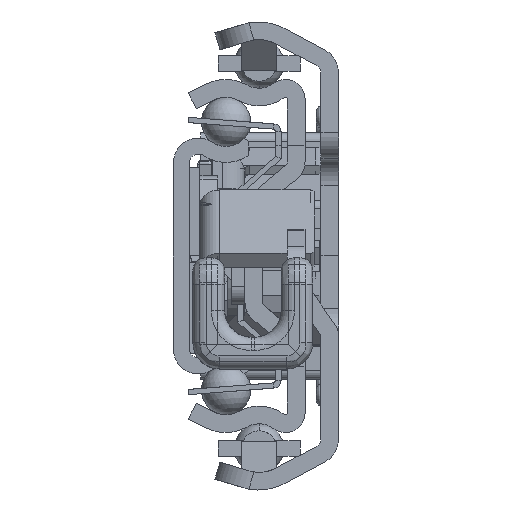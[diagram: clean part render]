
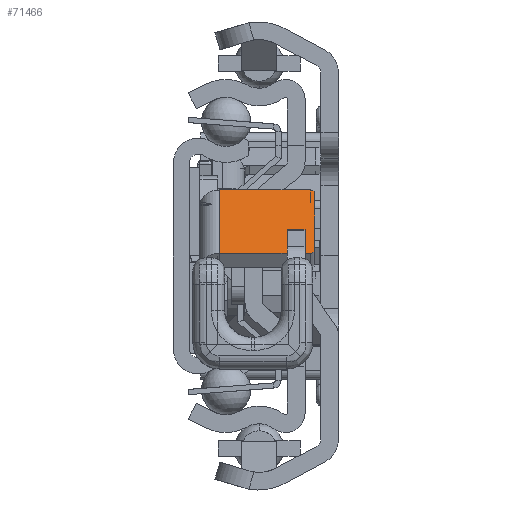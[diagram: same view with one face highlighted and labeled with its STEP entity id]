
A CAD part, left-side view. The second image highlights one B-rep face of the part: STEP entity #71466.
In plain terms, the highlighted planar face has unit normal (-0.597, 0, 0.802) as drawn and (-0.597, -0.802, 0) by its records, which use the part's own axes.
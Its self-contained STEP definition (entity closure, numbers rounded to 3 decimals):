
#70854=DIRECTION('',(0.802,-0.597,0.));
#70855=VECTOR('',#70854,12.);
#70856=CARTESIAN_POINT('',(31.957,-10.314,-0.2));
#70857=LINE('',#70856,#70855);
#70882=DIRECTION('',(0.,0.,1.));
#70883=VECTOR('',#70882,10.3);
#70884=CARTESIAN_POINT('',(41.586,-17.476,-10.5));
#70885=LINE('',#70884,#70883);
#70886=CARTESIAN_POINT('',(41.184,-17.178,-10.5));
#70887=DIRECTION('',(-0.597,-0.802,0.));
#70888=DIRECTION('',(0.,0.,-1.));
#70889=AXIS2_PLACEMENT_3D('',#70886,#70887,#70888);
#70891=DIRECTION('',(0.802,-0.597,0.));
#70892=VECTOR('',#70891,11.);
#70893=CARTESIAN_POINT('',(32.358,-10.613,-11.));
#70894=LINE('',#70893,#70892);
#70895=CARTESIAN_POINT('',(32.358,-10.613,-10.5));
#70896=DIRECTION('',(-0.597,-0.802,0.));
#70897=DIRECTION('',(-0.802,0.597,0.));
#70898=AXIS2_PLACEMENT_3D('',#70895,#70896,#70897);
#70900=DIRECTION('',(0.,0.,-1.));
#70901=VECTOR('',#70900,10.3);
#70902=CARTESIAN_POINT('',(31.957,-10.314,-0.2));
#70903=LINE('',#70902,#70901);
#71120=CARTESIAN_POINT('',(31.957,-10.314,-0.2));
#71121=CARTESIAN_POINT('',(41.586,-17.476,-0.2));
#71122=VERTEX_POINT('',#71120);
#71123=VERTEX_POINT('',#71121);
#71152=CARTESIAN_POINT('',(41.586,-17.476,-10.5));
#71153=VERTEX_POINT('',#71152);
#71154=CARTESIAN_POINT('',(32.358,-10.613,-11.));
#71155=CARTESIAN_POINT('',(41.184,-17.178,-11.));
#71156=VERTEX_POINT('',#71154);
#71157=VERTEX_POINT('',#71155);
#71158=CARTESIAN_POINT('',(31.957,-10.314,-10.5));
#71159=VERTEX_POINT('',#71158);
#71448=CARTESIAN_POINT('',(34.726,-12.374,2.));
#71449=DIRECTION('',(0.597,0.802,0.));
#71450=DIRECTION('',(0.802,-0.597,0.));
#71451=AXIS2_PLACEMENT_3D('',#71448,#71449,#71450);
#71452=PLANE('',#71451);
#71454=ORIENTED_EDGE('',*,*,#71453,.F.);
#71456=ORIENTED_EDGE('',*,*,#71455,.F.);
#71458=ORIENTED_EDGE('',*,*,#71457,.F.);
#71460=ORIENTED_EDGE('',*,*,#71459,.F.);
#71462=ORIENTED_EDGE('',*,*,#71461,.F.);
#71463=ORIENTED_EDGE('',*,*,#71435,.T.);
#71464=EDGE_LOOP('',(#71454,#71456,#71458,#71460,#71462,#71463));
#71465=FACE_OUTER_BOUND('',#71464,.F.);
#70890=CIRCLE('',#70889,0.5);
#70899=CIRCLE('',#70898,0.5);
#71435=EDGE_CURVE('',#71122,#71123,#70857,.T.);
#71453=EDGE_CURVE('',#71153,#71123,#70885,.T.);
#71455=EDGE_CURVE('',#71157,#71153,#70890,.T.);
#71457=EDGE_CURVE('',#71156,#71157,#70894,.T.);
#71459=EDGE_CURVE('',#71159,#71156,#70899,.T.);
#71461=EDGE_CURVE('',#71122,#71159,#70903,.T.);
#71466=ADVANCED_FACE('',(#71465),#71452,.F.);
